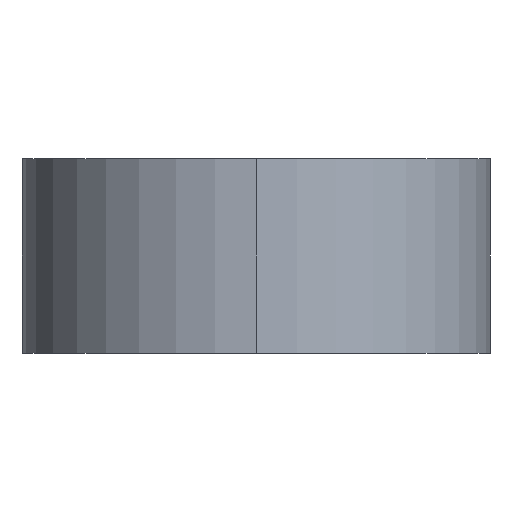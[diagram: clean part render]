
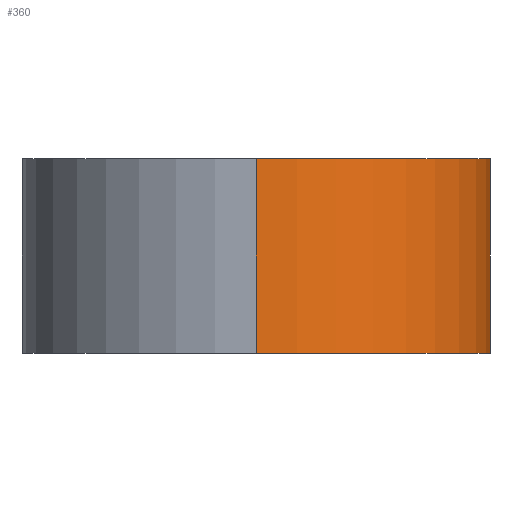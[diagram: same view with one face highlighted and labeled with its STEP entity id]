
A CAD part, left-side view. The second image highlights one B-rep face of the part: STEP entity #360.
In plain terms, the highlighted cylindrical face has radius 6 mm (diameter 12 mm), a partial arc.
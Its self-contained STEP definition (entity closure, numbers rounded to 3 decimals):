
#9 = DIRECTION ( 'NONE',  ( 0., 0., 1. ) ) ;
#10 = CIRCLE ( 'NONE', #158, 6. ) ;
#16 = DIRECTION ( 'NONE',  ( 1., 0., 0. ) ) ;
#41 = DIRECTION ( 'NONE',  ( 0., 0., -1. ) ) ;
#50 = VERTEX_POINT ( 'NONE', #192 ) ;
#57 = CARTESIAN_POINT ( 'NONE',  ( -30., 0., -2.5 ) ) ;
#104 = ORIENTED_EDGE ( 'NONE', *, *, #286, .F. ) ;
#109 = LINE ( 'NONE', #364, #340 ) ;
#112 = LINE ( 'NONE', #378, #408 ) ;
#138 = DIRECTION ( 'NONE',  ( 0., 0., -1. ) ) ;
#144 = CARTESIAN_POINT ( 'NONE',  ( -30., 0., 2.5 ) ) ;
#147 = CYLINDRICAL_SURFACE ( 'NONE', #255, 6. ) ;
#158 = AXIS2_PLACEMENT_3D ( 'NONE', #144, #9, #16 ) ;
#168 = EDGE_CURVE ( 'NONE', #243, #366, #232, .T. ) ;
#178 = AXIS2_PLACEMENT_3D ( 'NONE', #57, #420, #323 ) ;
#192 = CARTESIAN_POINT ( 'NONE',  ( -36., 0., 2.5 ) ) ;
#217 = EDGE_LOOP ( 'NONE', ( #321, #381, #415, #104 ) ) ;
#231 = CARTESIAN_POINT ( 'NONE',  ( -36., 0., -2.5 ) ) ;
#232 = CIRCLE ( 'NONE', #178, 6. ) ;
#236 = EDGE_CURVE ( 'NONE', #50, #243, #112, .T. ) ;
#243 = VERTEX_POINT ( 'NONE', #231 ) ;
#255 = AXIS2_PLACEMENT_3D ( 'NONE', #315, #41, #277 ) ;
#274 = FACE_OUTER_BOUND ( 'NONE', #217, .T. ) ;
#275 = CARTESIAN_POINT ( 'NONE',  ( -30., -6., -2.5 ) ) ;
#277 = DIRECTION ( 'NONE',  ( -1., 0., 0. ) ) ;
#286 = EDGE_CURVE ( 'NONE', #401, #366, #109, .T. ) ;
#315 = CARTESIAN_POINT ( 'NONE',  ( -30., 0., 2.5 ) ) ;
#321 = ORIENTED_EDGE ( 'NONE', *, *, #342, .F. ) ;
#323 = DIRECTION ( 'NONE',  ( 1., 0., 0. ) ) ;
#340 = VECTOR ( 'NONE', #375, 1000. ) ;
#342 = EDGE_CURVE ( 'NONE', #50, #401, #10, .T. ) ;
#351 = CARTESIAN_POINT ( 'NONE',  ( -30., -6., 2.5 ) ) ;
#360 = ADVANCED_FACE ( 'NONE', ( #274 ), #147, .T. ) ;
#364 = CARTESIAN_POINT ( 'NONE',  ( -30., -6., 2.5 ) ) ;
#366 = VERTEX_POINT ( 'NONE', #275 ) ;
#375 = DIRECTION ( 'NONE',  ( 0., 0., -1. ) ) ;
#378 = CARTESIAN_POINT ( 'NONE',  ( -36., 0., 2.5 ) ) ;
#381 = ORIENTED_EDGE ( 'NONE', *, *, #236, .T. ) ;
#401 = VERTEX_POINT ( 'NONE', #351 ) ;
#408 = VECTOR ( 'NONE', #138, 1000. ) ;
#415 = ORIENTED_EDGE ( 'NONE', *, *, #168, .T. ) ;
#420 = DIRECTION ( 'NONE',  ( 0., 0., 1. ) ) ;
